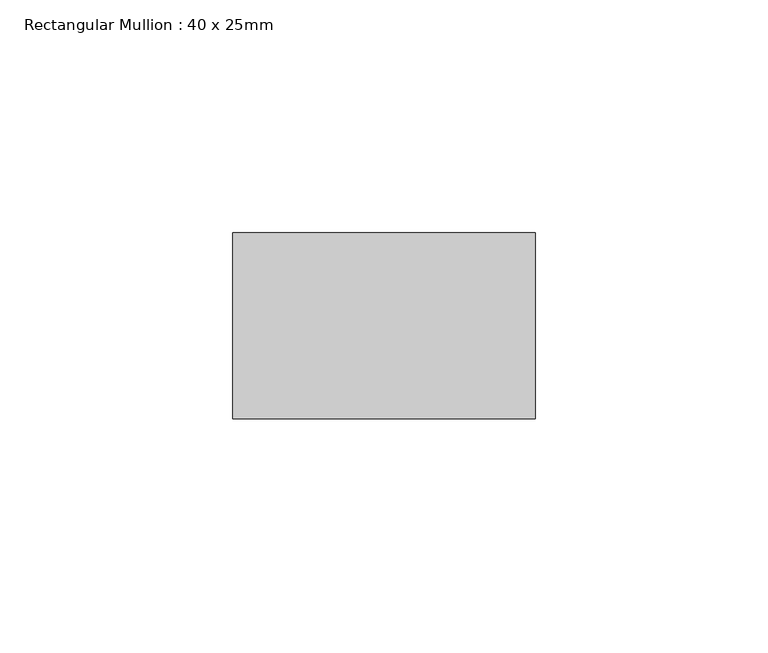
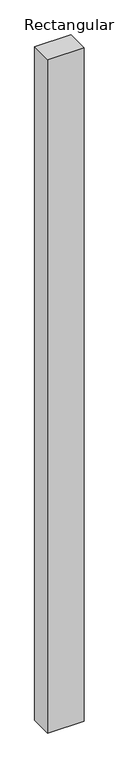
"""IFC4 building model written with IfcOpenShell, lengths in millimetres: member geometry, Rectangular Mullion : 40 x 25mm."""

from ifc_helpers import new_model, si_unit, frame, origin, place, context, project, spatial, polyline, outline, extrude, source, transform, mapped, element, save


def rectangular_mullion_40_x_25mm_fbcb8731(model_context):
    return source(origin(), model_context, "Body", "SweptSolid", [
        extrude(outline(polyline([(40.0, -20.0), (40.0, -60.0), (-25.0, -60.0), (-25.0, -20.0), (40.0, -20.0)])), frame((0.0, 0.0, -1270.0), z_axis=(0.0, 0.0, 1.0), x_axis=(1.0, 0.0, 0.0)), (0.0, 0.0, 1.0), 1270.0),
    ])


if __name__ == "__main__":
    model = new_model("IFC4")
    model_context = context("Model", 3, world=origin())
    ifc_project = project(units=[si_unit("LENGTHUNIT", "METRE", prefix="MILLI")], contexts=[model_context])
    site = spatial("IfcSite", under=ifc_project)
    building = spatial("IfcBuilding", under=site)
    placement = place(None, origin())
    rectangular_mullion_40_x_25mm_shape = rectangular_mullion_40_x_25mm_fbcb8731(model_context)
    element("IfcMember", 1, ObjectType="Rectangular Mullion : 40 x 25mm", at=placement, inside=building, context=model_context, shape_type="MappedRepresentation", body=[
        mapped(rectangular_mullion_40_x_25mm_shape, transform((0.0, 0.0, 0.0), x_axis=(1.0, 0.0, 0.0), y_axis=(0.0, 1.0, 0.0), z_axis=(0.0, 0.0, 1.0))),
    ])
    save(model, "model.ifc")
